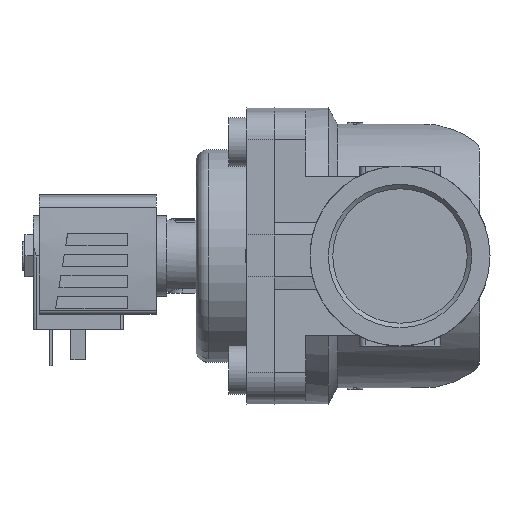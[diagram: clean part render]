
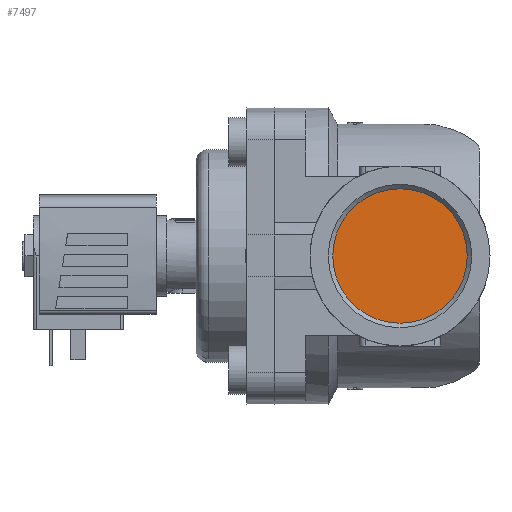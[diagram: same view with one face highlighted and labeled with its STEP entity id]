
A CAD part, left-side view. The second image highlights one B-rep face of the part: STEP entity #7497.
In plain terms, the highlighted planar face has unit normal (-1, 0, 0).
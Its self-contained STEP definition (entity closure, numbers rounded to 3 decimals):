
#2667=ORIENTED_EDGE('',*,*,#3868,.F.);
#3868=EDGE_CURVE('',#4574,#4574,#4913,.T.);
#4574=VERTEX_POINT('',#11610);
#4913=CIRCLE('',#8061,22.423);
#5236=EDGE_LOOP('',(#2667));
#5644=FACE_BOUND('',#5236,.T.);
#5938=PLANE('',#8062);
#7497=ADVANCED_FACE('',(#5644),#5938,.T.);
#8061=AXIS2_PLACEMENT_3D('',#11609,#9487,#9488);
#8062=AXIS2_PLACEMENT_3D('',#11611,#9489,#9490);
#9487=DIRECTION('',(1.,0.,0.));
#9488=DIRECTION('',(0.,0.,-1.));
#9489=DIRECTION('',(-1.,0.,0.));
#9490=DIRECTION('',(0.,0.,1.));
#11609=CARTESIAN_POINT('',(-38.,0.,0.));
#11610=CARTESIAN_POINT('',(-38.,0.,-22.423));
#11611=CARTESIAN_POINT('',(-38.,22.423,0.));
